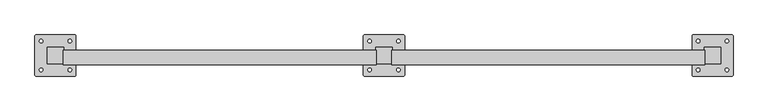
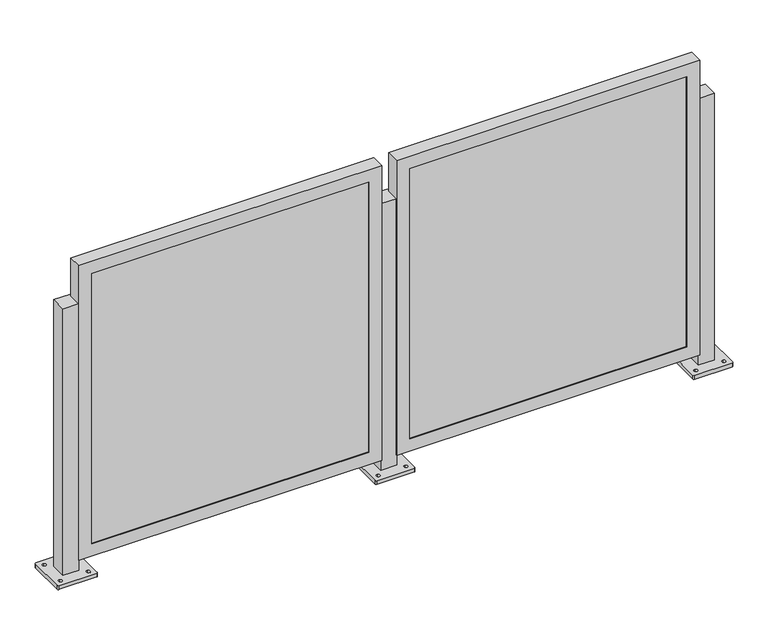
"""IFC4 building model written with IfcOpenShell, lengths in millimetres: railing geometry."""

import ifcopenshell
import ifcopenshell.guid

model = None  # the IFC model being written
_history = None  # IfcOwnerHistory: only IFC2X3 demands one
_inside = {}  # id of a spatial element -> (the spatial element, [elements in it])
_under = {}  # id of a project, library or spatial element -> (it, [spatial elements below it])
_declared = {}  # id of a project -> (the project, [libraries it declares])
_typed = {}  # id of a type object -> (the type object, [elements of that type])
_made_of = {}  # id of a material, layer set ... -> (it, [elements and type objects made of it])


def new_model(schema):
    """Start an empty IFC model of exactly this schema.

    Asked for "IFC4X3", IfcOpenShell would pick the latest addendum, in which some entities
    have other attributes; the version numbers below select the first issue.
    IFC2X3 requires an IfcOwnerHistory on every rooted entity: one is made here for all.
    """
    global model, _history
    if schema == "IFC4X3":
        model = ifcopenshell.file(schema_version=(4, 3, 0, 0))
    else:
        model = ifcopenshell.file(schema=schema)
    _inside.clear()
    _under.clear()
    _declared.clear()
    _typed.clear()
    _made_of.clear()
    _history = None
    if model.schema == "IFC2X3":
        org = make("IfcOrganization", Name="unknown")
        user = make(
            "IfcPersonAndOrganization",
            ThePerson=make("IfcPerson", FamilyName="unknown"),
            TheOrganization=org,
        )
        app = make(
            "IfcApplication",
            ApplicationDeveloper=org,
            Version="unknown",
            ApplicationFullName="unknown",
            ApplicationIdentifier="unknown",
        )
        _history = make(
            "IfcOwnerHistory",
            OwningUser=user,
            OwningApplication=app,
            ChangeAction="ADDED",
            CreationDate=0,
        )
    return model


def make(cls, **values):
    """One entity of the class cls with the attributes given. An attribute that is None is left unset."""
    return model.create_entity(
        cls, **{name: value for name, value in values.items() if value is not None}
    )


def rooted(cls, **values):
    """An entity with a GlobalId (a new one), such as an element, a storey or a relation."""
    return make(cls, GlobalId=ifcopenshell.guid.new(), OwnerHistory=_history, **values)


def si_unit(unit_type, name, prefix=None):
    """IfcSIUnit, for example si_unit("LENGTHUNIT", "METRE", prefix="MILLI")."""
    return make("IfcSIUnit", UnitType=unit_type, Prefix=prefix, Name=name)


def assignment(units):
    """IfcUnitAssignment: the units of a project."""
    return None if units is None else make("IfcUnitAssignment", Units=units)


def point(xyz):
    """IfcCartesianPoint."""
    return None if xyz is None else make("IfcCartesianPoint", Coordinates=xyz)


def direction(xyz):
    """IfcDirection."""
    return None if xyz is None else make("IfcDirection", DirectionRatios=xyz)


def frame(location, z_axis=None, x_axis=None):
    """IfcAxis2Placement3D, a coordinate frame: its origin and axes. An axis left out is left unset."""
    return make(
        "IfcAxis2Placement3D",
        Location=point(location),
        Axis=direction(z_axis),
        RefDirection=direction(x_axis),
    )


def origin():
    """The frame at (0, 0, 0) with its axes left unset."""
    return frame((0.0, 0.0, 0.0))


def place(relative_to, where):
    """IfcLocalPlacement: puts the frame where relative to a parent placement (None: the world)."""
    return make(
        "IfcLocalPlacement", PlacementRelTo=relative_to, RelativePlacement=where
    )


def context(
    kind, dimensions, precision=None, world=None, true_north=None, identifier=None
):
    """IfcGeometricRepresentationContext, for example the 3D "Model" context."""
    return make(
        "IfcGeometricRepresentationContext",
        ContextIdentifier=identifier,
        ContextType=kind,
        CoordinateSpaceDimension=dimensions,
        Precision=precision,
        WorldCoordinateSystem=world,
        TrueNorth=true_north,
    )


def project(units=None, contexts=None):
    """IfcProject with its units and contexts."""
    return rooted(
        "IfcProject",
        Name="project",
        RepresentationContexts=contexts,
        UnitsInContext=assignment(units),
    )


def spatial(cls, under=None, at=None, **own):
    """A site, building, storey or space (cls), placed at a placement, below another one or the project."""
    s = rooted(cls, ObjectPlacement=at, **own)
    if under is not None:
        _under.setdefault(under.id(), (under, []))[1].append(s)
    return s


def polyline(points):
    """IfcPolyline through the points."""
    return make("IfcPolyline", Points=[point(p) for p in points])


def circle_curve(where, radius):
    """IfcCircle in the frame where."""
    return make("IfcCircle", Position=where, Radius=radius)


def outline(outer, holes=None, kind="AREA"):
    """IfcArbitraryClosedProfileDef: a profile drawn as a closed curve; with holes, ...WithVoids."""
    if holes is None:
        return make("IfcArbitraryClosedProfileDef", ProfileType=kind, OuterCurve=outer)
    return make(
        "IfcArbitraryProfileDefWithVoids",
        ProfileType=kind,
        OuterCurve=outer,
        InnerCurves=holes,
    )


def extrude(swept, where, along, depth):
    """IfcExtrudedAreaSolid: the profile swept, set in the frame where, extruded along a direction by depth."""
    return make(
        "IfcExtrudedAreaSolid",
        SweptArea=swept,
        Position=where,
        ExtrudedDirection=direction(along),
        Depth=depth,
    )


def faces_of(points, faces, orient=None, outer=None):
    """IfcFace entities. A face is a list of loops; a loop is a list of indices into points, from 0.

    orient and outer hold one flag for each loop. By default every Orientation is true, the
    first loop of a face is its IfcFaceOuterBound and the others are IfcFaceBound.
    """
    made = []
    for i, loops in enumerate(faces):
        bounds = []
        for j, loop in enumerate(loops):
            is_outer = j == 0 if outer is None else outer[i][j]
            bounds.append(
                make(
                    "IfcFaceOuterBound" if is_outer else "IfcFaceBound",
                    Bound=make("IfcPolyLoop", Polygon=[points[k] for k in loop]),
                    Orientation=True if orient is None else orient[i][j],
                )
            )
        made.append(make("IfcFace", Bounds=bounds))
    return made


def faceted_brep(points, faces, orient=None, outer=None, voids=None):
    """IfcFacetedBrep: a solid bounded by flat faces; with voids (closed shells), ...WithVoids."""
    shared = [point(p) for p in points]
    hull = make("IfcClosedShell", CfsFaces=faces_of(shared, faces, orient, outer))
    if voids is None:
        return make("IfcFacetedBrep", Outer=hull)
    return make(
        "IfcFacetedBrepWithVoids",
        Outer=hull,
        Voids=[
            make(cls, CfsFaces=faces_of(shared, fs, o, b)) for cls, fs, o, b in voids
        ],
    )


def shape(context_of_items, identifier, shape_type, items):
    """IfcShapeRepresentation: the items that make up one representation, for example the "Body"."""
    return make(
        "IfcShapeRepresentation",
        ContextOfItems=context_of_items,
        RepresentationIdentifier=identifier,
        RepresentationType=shape_type,
        Items=items,
    )


def source(mapping_origin, context_of_items, identifier, shape_type, items):
    """IfcRepresentationMap: a shape defined once, which mapped items show again and again."""
    return make(
        "IfcRepresentationMap",
        MappingOrigin=mapping_origin,
        MappedRepresentation=shape(context_of_items, identifier, shape_type, items),
    )


def transform(
    local_origin,
    x_axis=None,
    y_axis=None,
    z_axis=None,
    scale=None,
    scale2=None,
    scale3=None,
    uniform=True,
):
    """IfcCartesianTransformationOperator3D, or its non-uniform kind. x_axis, y_axis, z_axis: its Axis1, 2, 3."""
    if uniform:
        return make(
            "IfcCartesianTransformationOperator3D",
            Axis1=direction(x_axis),
            Axis2=direction(y_axis),
            LocalOrigin=point(local_origin),
            Scale=scale,
            Axis3=direction(z_axis),
        )
    return make(
        "IfcCartesianTransformationOperator3DnonUniform",
        Axis1=direction(x_axis),
        Axis2=direction(y_axis),
        LocalOrigin=point(local_origin),
        Scale=scale,
        Axis3=direction(z_axis),
        Scale2=scale2,
        Scale3=scale3,
    )


def mapped(mapping_source, mapping_target):
    """IfcMappedItem: shows the shape of a source again, moved by a transform."""
    return make(
        "IfcMappedItem", MappingSource=mapping_source, MappingTarget=mapping_target
    )


def made_of(thing, what):
    """Note that an element or type object is made of a material, layer set ...; save() writes the relation."""
    if what is not None:
        _made_of.setdefault(what.id(), (what, []))[1].append(thing)
    return thing


def element(
    cls,
    number,
    at=None,
    inside=None,
    cuts=None,
    type_object=None,
    material=None,
    context=None,
    identifier="Body",
    shape_type=None,
    held_by="IfcProductDefinitionShape",
    body=None,
    shapes=None,
    **own,
):
    """One element of the class cls, such as IfcWall. Its Tag is "e" and its number.

    at: its placement. inside: the storey or other place that contains it. cuts: it is an
    opening in that element (IfcRelVoidsElement). A single representation is given by context,
    identifier, shape_type and body (its items); several are given by shapes. held_by: the class
    of the entity that holds the representations. save() writes the other relations.
    """
    e = rooted(cls, Tag="e%d" % number, ObjectPlacement=at, **own)
    if body is not None:
        shapes = [shape(context, identifier, shape_type, body)]
    if shapes is not None:
        e.Representation = make(held_by, Representations=shapes)
    if inside is not None:
        _inside.setdefault(inside.id(), (inside, []))[1].append(e)
    if cuts is not None:
        rooted(
            "IfcRelVoidsElement", RelatingBuildingElement=cuts, RelatedOpeningElement=e
        )
    if type_object is not None:
        _typed.setdefault(type_object.id(), (type_object, []))[1].append(e)
    return made_of(e, material)


def aggregate(whole, parts):
    """IfcRelAggregates: a whole, such as a stair, and the parts it consists of."""
    return rooted("IfcRelAggregates", RelatingObject=whole, RelatedObjects=parts)


def save(model, path):
    """Write the relations noted so far, then the file.

    IfcRelAggregates (storeys below a building ...), IfcRelContainedInSpatialStructure (elements
    in a storey), IfcRelDefinesByType, IfcRelAssociatesMaterial and IfcRelDeclares: one each for
    every whole, place, type object, material and project.
    """
    for whole, parts in _under.values():
        aggregate(whole, parts)
    for where, things in _inside.values():
        rooted(
            "IfcRelContainedInSpatialStructure",
            RelatedElements=things,
            RelatingStructure=where,
        )
    for kind, things in _typed.values():
        rooted("IfcRelDefinesByType", RelatedObjects=things, RelatingType=kind)
    for what, things in _made_of.values():
        rooted("IfcRelAssociatesMaterial", RelatedObjects=things, RelatingMaterial=what)
    for by, libraries in _declared.values():
        rooted("IfcRelDeclares", RelatingContext=by, RelatedDefinitions=libraries)
    model.write(path)


def plane_surface(at):
    """IfcPlane: the flat surface through the origin of the frame at, square to its z axis."""
    return make("IfcPlane", Position=at)


def cylinder_surface(at, radius):
    """IfcCylindricalSurface: all points at the distance radius from the z axis of the frame at."""
    return make("IfcCylindricalSurface", Position=at, Radius=radius)


def revolved_surface(curve, axis_point, axis_direction):
    """IfcSurfaceOfRevolution: the curve turned about the line through axis_point along axis_direction."""
    return make(
        "IfcSurfaceOfRevolution",
        SweptCurve=make("IfcArbitraryOpenProfileDef", ProfileType="CURVE", Curve=curve),
        AxisPosition=make("IfcAxis1Placement", Location=point(axis_point), Axis=direction(axis_direction)),
    )


def advanced_brep(points, edges, surfaces, faces):
    """IfcAdvancedBrep: a solid bounded by faces that lie on surfaces and meet in shared edges.

    An edge is (start, end): straight between two places in points (the first is 0);
    or (start, end, curve); or (start, end, curve, False) where it runs against its curve.
    A face is (place in surfaces, loops), or (place, loops, False) where it looks against
    its surface's normal. A loop lists edges by number (the first is 1), with a minus sign
    where the edge is run from its end to its start. The first loop is the outer one.
    """
    corners = [point(p) for p in points]
    vertices = [make("IfcVertexPoint", VertexGeometry=c) for c in corners]
    made = []
    for start, end, *more in edges:
        made.append(
            make(
                "IfcEdgeCurve",
                EdgeStart=vertices[start],
                EdgeEnd=vertices[end],
                EdgeGeometry=more[0] if more else make("IfcPolyline", Points=[corners[start], corners[end]]),
                SameSense=more[1] if len(more) > 1 else True,
            )
        )
    hull = []
    for where, loops, *sense in faces:
        bounds = []
        for j, loop in enumerate(loops):
            ring = [make("IfcOrientedEdge", EdgeElement=made[abs(k) - 1], Orientation=k > 0) for k in loop]
            bounds.append(
                make(
                    "IfcFaceOuterBound" if j == 0 else "IfcFaceBound",
                    Bound=make("IfcEdgeLoop", EdgeList=ring),
                    Orientation=True,
                )
            )
        hull.append(make("IfcAdvancedFace", Bounds=bounds, FaceSurface=surfaces[where], SameSense=sense[0] if sense else True))
    return make("IfcAdvancedBrep", Outer=make("IfcClosedShell", CfsFaces=hull))


def railing_5ce61c46(model_context):
    return source(origin(), model_context, "Body", "SolidModel", [
        advanced_brep(
        [(-11302.6460435, -9692.6420964, 914.4), (-11302.6460435, -9743.4420964, 914.4), (-11251.8460435, -9743.4420964, 914.4), (-11251.8460435, -9692.6420964, 914.4), (-11340.7460437, -9778.3670554, 0.0), (-11340.7460437, -9657.7171374, 0.0), (-11337.5710155, -9654.5421093, 0.0), (-11216.9210715, -9654.5421093, 0.0), (-11213.7460433, -9657.7171374, 0.0), (-11213.7460433, -9778.3670554, 0.0), (-11216.9210715, -9781.5420835, 0.0), (-11337.5710155, -9781.5420835, 0.0), (-11321.6960311, -9768.0483511, 0.0), (-11321.6960311, -9756.9358386, 0.0), (-11321.696042, -9679.1483467, 0.0), (-11321.696042, -9668.0358651, 0.0), (-11232.7960301, -9768.0483495, 0.0), (-11232.7960301, -9756.9358389, 0.0), (-11232.796041, -9679.1483452, 0.0), (-11232.796041, -9668.0358654, 0.0), (-11302.6460435, -9692.6420964, 12.7), (-11302.6460435, -9743.4420964, 12.7), (-11251.8460435, -9743.4420964, 12.7), (-11251.8460435, -9692.6420964, 12.7), (-11340.7460437, -9778.3670554, 12.7), (-11337.5710155, -9781.5420835, 12.7), (-11216.9210715, -9781.5420835, 12.7), (-11213.7460433, -9778.3670554, 12.7), (-11213.7460433, -9657.7171374, 12.7), (-11216.9210715, -9654.5421093, 12.7), (-11337.5710155, -9654.5421093, 12.7), (-11340.7460437, -9657.7171374, 12.7), (-11321.6960311, -9768.0483511, 12.7), (-11321.6960311, -9756.9358386, 12.7), (-11321.696042, -9679.1483467, 12.7), (-11321.696042, -9668.0358651, 12.7), (-11232.7960301, -9768.0483495, 12.7), (-11232.7960301, -9756.9358389, 12.7), (-11232.796041, -9679.1483452, 12.7), (-11232.796041, -9668.0358654, 12.7)],
        [
            (0, 1),
            (1, 2),
            (2, 3),
            (3, 0),
            (4, 5),
            (5, 6, circle_curve(frame((-11337.5710155, -9657.7171374, 0.0), z_axis=(0.0, 0.0, -1.0), x_axis=(0.0, 1.0, 0.0)), 3.1750282)),
            (6, 7),
            (7, 8, circle_curve(frame((-11216.9210715, -9657.7171374, 0.0), z_axis=(0.0, 0.0, -1.0), x_axis=(0.0, 1.0, 0.0)), 3.1750282)),
            (8, 9),
            (9, 10, circle_curve(frame((-11216.9210715, -9778.3670554, 0.0), z_axis=(0.0, 0.0, -1.0), x_axis=(0.0, 1.0, 0.0)), 3.1750282)),
            (10, 11),
            (11, 4, circle_curve(frame((-11337.5710155, -9778.3670554, 0.0), z_axis=(0.0, 0.0, -1.0), x_axis=(0.0, 1.0, 0.0)), 3.1750282)),
            (12, 13, circle_curve(frame((-11321.6960311, -9762.4920948, 0.0), z_axis=(0.0, 0.0, 1.0), x_axis=(0.0, 1.0, 0.0)), 5.5562562)),
            (13, 12, circle_curve(frame((-11321.6960311, -9762.4920948, 0.0), z_axis=(0.0, 0.0, 1.0), x_axis=(0.0, 1.0, 0.0)), 5.5562562)),
            (14, 15, circle_curve(frame((-11321.696042, -9673.5921059, 0.0), z_axis=(0.0, 0.0, 1.0), x_axis=(0.0, 1.0, 0.0)), 5.5562408)),
            (15, 14, circle_curve(frame((-11321.696042, -9673.5921059, 0.0), z_axis=(0.0, 0.0, 1.0), x_axis=(0.0, 1.0, 0.0)), 5.5562408)),
            (16, 17, circle_curve(frame((-11232.7960301, -9762.4920942, 0.0), z_axis=(0.0, 0.0, 1.0), x_axis=(0.0, 1.0, 0.0)), 5.5562553)),
            (17, 16, circle_curve(frame((-11232.7960301, -9762.4920942, 0.0), z_axis=(0.0, 0.0, 1.0), x_axis=(0.0, 1.0, 0.0)), 5.5562553)),
            (18, 19, circle_curve(frame((-11232.796041, -9673.5921053, 0.0), z_axis=(0.0, 0.0, 1.0), x_axis=(0.0, 1.0, 0.0)), 5.5562399)),
            (19, 18, circle_curve(frame((-11232.796041, -9673.5921053, 0.0), z_axis=(0.0, 0.0, 1.0), x_axis=(0.0, 1.0, 0.0)), 5.5562399)),
            (0, 20),
            (20, 21),
            (21, 1),
            (21, 22),
            (22, 2),
            (22, 23),
            (23, 3),
            (23, 20),
            (24, 25, circle_curve(frame((-11337.5710155, -9778.3670554, 12.7), z_axis=(0.0, 0.0, 1.0), x_axis=(0.0, 1.0, 0.0)), 3.1750282)),
            (25, 26),
            (26, 27, circle_curve(frame((-11216.9210715, -9778.3670554, 12.7), z_axis=(0.0, 0.0, 1.0), x_axis=(0.0, 1.0, 0.0)), 3.1750282)),
            (27, 28),
            (28, 29, circle_curve(frame((-11216.9210715, -9657.7171374, 12.7), z_axis=(0.0, 0.0, 1.0), x_axis=(0.0, 1.0, 0.0)), 3.1750282)),
            (29, 30),
            (30, 31, circle_curve(frame((-11337.5710155, -9657.7171374, 12.7), z_axis=(0.0, 0.0, 1.0), x_axis=(0.0, 1.0, 0.0)), 3.1750282)),
            (31, 24),
            (32, 33, circle_curve(frame((-11321.6960311, -9762.4920948, 12.7), z_axis=(0.0, 0.0, -1.0), x_axis=(0.0, 1.0, 0.0)), 5.5562562)),
            (33, 32, circle_curve(frame((-11321.6960311, -9762.4920948, 12.7), z_axis=(0.0, 0.0, -1.0), x_axis=(0.0, 1.0, 0.0)), 5.5562562)),
            (34, 35, circle_curve(frame((-11321.696042, -9673.5921059, 12.7), z_axis=(0.0, 0.0, -1.0), x_axis=(0.0, 1.0, 0.0)), 5.5562408)),
            (35, 34, circle_curve(frame((-11321.696042, -9673.5921059, 12.7), z_axis=(0.0, 0.0, -1.0), x_axis=(0.0, 1.0, 0.0)), 5.5562408)),
            (36, 37, circle_curve(frame((-11232.7960301, -9762.4920942, 12.7), z_axis=(0.0, 0.0, -1.0), x_axis=(0.0, 1.0, 0.0)), 5.5562553)),
            (37, 36, circle_curve(frame((-11232.7960301, -9762.4920942, 12.7), z_axis=(0.0, 0.0, -1.0), x_axis=(0.0, 1.0, 0.0)), 5.5562553)),
            (38, 39, circle_curve(frame((-11232.796041, -9673.5921053, 12.7), z_axis=(0.0, 0.0, -1.0), x_axis=(0.0, 1.0, 0.0)), 5.5562399)),
            (39, 38, circle_curve(frame((-11232.796041, -9673.5921053, 12.7), z_axis=(0.0, 0.0, -1.0), x_axis=(0.0, 1.0, 0.0)), 5.5562399)),
            (24, 4),
            (11, 25),
            (10, 26),
            (9, 27),
            (8, 28),
            (7, 29),
            (6, 30),
            (5, 31),
            (32, 12),
            (13, 33),
            (34, 14),
            (15, 35),
            (36, 16),
            (17, 37),
            (38, 18),
            (19, 39),
        ],
        [
            plane_surface(frame((-11302.6460435, -9743.4420964, 914.4), z_axis=(0.0, 0.0, 1.0), x_axis=(0.0, -1.0, 0.0))),
            plane_surface(frame((-11302.6460435, -9743.4420964, 0.0), z_axis=(0.0, 0.0, -1.0), x_axis=(0.0, 1.0, 0.0))),
            plane_surface(frame((-11302.6460435, -9692.6420964, 914.4), z_axis=(-1.0, 0.0, 0.0), x_axis=(0.0, 0.0, -1.0))),
            plane_surface(frame((-11302.6460435, -9743.4420964, 914.4), z_axis=(0.0, -1.0, 0.0), x_axis=(0.0, 0.0, -1.0))),
            plane_surface(frame((-11251.8460435, -9743.4420964, 914.4), z_axis=(1.0, 0.0, 0.0), x_axis=(0.0, 0.0, -1.0))),
            plane_surface(frame((-11251.8460435, -9692.6420964, 914.4), z_axis=(0.0, 1.0, 0.0), x_axis=(0.0, 0.0, -1.0))),
            plane_surface(frame((-11337.5710155, -9775.1920272, 12.7), z_axis=(0.0, 0.0, 1.0), x_axis=(-1.0, 0.0, 0.0))),
            cylinder_surface(frame((-11337.5710155, -9778.3670554, 0.0), z_axis=(0.0, 0.0, 1.0), x_axis=(0.0, 1.0, 0.0)), 3.1750282),
            plane_surface(frame((-11337.5710155, -9781.5420835, 12.7), z_axis=(1.1945386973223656e-12, -1.0, 0.0), x_axis=(0.0, 0.0, -1.0))),
            cylinder_surface(frame((-11216.9210715, -9778.3670554, 0.0), z_axis=(0.0, 0.0, 1.0), x_axis=(0.0, 1.0, 0.0)), 3.1750282),
            plane_surface(frame((-11213.7460433, -9778.3670554, 12.7), z_axis=(1.0, 0.0, 0.0), x_axis=(0.0, 0.0, -1.0))),
            cylinder_surface(frame((-11216.9210715, -9657.7171374, 0.0), z_axis=(0.0, 0.0, 1.0), x_axis=(0.0, 1.0, 0.0)), 3.1750282),
            plane_surface(frame((-11216.9210715, -9654.5421093, 12.7), z_axis=(-1.1946088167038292e-12, 1.0, 0.0), x_axis=(0.0, 0.0, -1.0))),
            cylinder_surface(frame((-11337.5710155, -9657.7171374, 0.0), z_axis=(0.0, 0.0, 1.0), x_axis=(0.0, 1.0, 0.0)), 3.1750282),
            plane_surface(frame((-11340.7460437, -9657.7171374, 12.7), z_axis=(-1.0, 0.0, 0.0), x_axis=(0.0, 0.0, -1.0))),
            revolved_surface(polyline([(-11321.6960311, -9756.9358386, 0.0), (-11321.6960311, -9756.9358386, 12.7)]), (-11321.6960311, -9762.4920948, 0.0), (0.0, 0.0, -1.0)),
            revolved_surface(polyline([(-11321.696042, -9668.035865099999, 0.0), (-11321.696042, -9668.035865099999, 12.7)]), (-11321.696042, -9673.5921059, 0.0), (0.0, 0.0, -1.0)),
            revolved_surface(polyline([(-11232.7960301, -9756.9358389, 0.0), (-11232.7960301, -9756.9358389, 12.7)]), (-11232.7960301, -9762.4920942, 0.0), (0.0, 0.0, -1.0)),
            revolved_surface(polyline([(-11232.796041, -9668.035865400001, 0.0), (-11232.796041, -9668.035865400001, 12.7)]), (-11232.796041, -9673.5921053, 0.0), (0.0, 0.0, -1.0)),
        ],
        [
            (0, [[1, 2, 3, 4]]),
            (1, [[5, 6, 7, 8, 9, 10, 11, 12], [13, 14], [15, 16], [17, 18], [19, 20]]),
            (2, [[-1, 21, 22, 23]]),
            (3, [[-2, -23, 24, 25]]),
            (4, [[-3, -25, 26, 27]]),
            (5, [[-4, -27, 28, -21]]),
            (6, [[29, 30, 31, 32, 33, 34, 35, 36], [-22, -28, -26, -24], [37, 38], [39, 40], [41, 42], [43, 44]]),
            (7, [[-29, 45, -12, 46]]),
            (8, [[-30, -46, -11, 47]]),
            (9, [[-31, -47, -10, 48]]),
            (10, [[-32, -48, -9, 49]]),
            (11, [[-33, -49, -8, 50]]),
            (12, [[-34, -50, -7, 51]]),
            (13, [[-35, -51, -6, 52]]),
            (14, [[-36, -52, -5, -45]]),
            (15, [[-37, 53, -14, 54]]),
            (15, [[-38, -54, -13, -53]]),
            (16, [[-39, 55, -16, 56]]),
            (16, [[-40, -56, -15, -55]]),
            (17, [[-41, 57, -18, 58]]),
            (17, [[-42, -58, -17, -57]]),
            (18, [[-43, 59, -20, 60]]),
            (18, [[-44, -60, -19, -59]]),
        ],
    ),
        faceted_brep([(-12269.0504969, -9746.1852964, 47.625), (-11300.6754969, -9746.1852964, 47.625), (-11300.6754969, -9746.1852964, 1044.575), (-12269.0504969, -9746.1852964, 1044.575), (-12227.7754969, -9746.1852964, 1003.3), (-11341.9504969, -9746.1852964, 1003.3), (-11341.9504969, -9746.1852964, 88.9), (-12227.7754969, -9746.1852964, 88.9), (-12227.7754969, -9743.4420964, 1003.3), (-12227.7754969, -9743.4420964, 88.9), (-12269.0504969, -9702.3119999, 1044.575), (-12269.0504969, -9702.3119999, 47.625), (-12265.8754969, -9702.3119999, 1041.4), (-12265.8754969, -9743.4420964, 1041.4), (-12265.8754969, -9743.4420964, 50.8), (-12265.8754969, -9702.3119999, 50.8), (-11341.9504969, -9743.4420964, 88.9), (-11300.6754969, -9702.3119999, 47.625), (-11303.8504969, -9743.4420964, 50.8), (-11303.8504969, -9702.3119999, 50.8), (-11341.9504969, -9743.4420964, 1003.3), (-11300.6754969, -9702.3119999, 1044.575), (-11303.8504969, -9743.4420964, 1041.4), (-11303.8504969, -9702.3119999, 1041.4)], [[[0, 1, 2, 3], [4, 5, 6, 7]], [[8, 4, 7, 9]], [[3, 10, 11, 0]], [[12, 13, 14, 15]], [[9, 7, 6, 16]], [[0, 11, 17, 1]], [[15, 14, 18, 19]], [[16, 6, 5, 20]], [[1, 17, 21, 2]], [[19, 18, 22, 23]], [[20, 5, 4, 8]], [[10, 21, 17, 11], [15, 19, 23, 12]], [[2, 21, 10, 3]], [[13, 22, 18, 14], [9, 16, 20, 8]], [[23, 22, 13, 12]]]),
        extrude(outline(polyline([(-12265.8754969, -9733.9170964), (-11303.8504969, -9733.9170964), (-11303.8504969, -9743.4420964), (-12265.8754969, -9743.4420964), (-12265.8754969, -9733.9170964)])), frame((0.0, 0.0, 50.8), z_axis=(0.0, 0.0, 1.0), x_axis=(1.0, 0.0, 0.0)), (0.0, 0.0, 1.0), 990.6),
        advanced_brep(
        [(-12318.6460435, -9692.6420964, 914.4), (-12318.6460435, -9743.4420964, 914.4), (-12267.8460435, -9743.4420964, 914.4), (-12267.8460435, -9692.6420964, 914.4), (-12356.7460437, -9778.3670554, 0.0), (-12356.7460437, -9657.7171374, 0.0), (-12353.5710155, -9654.5421093, 0.0), (-12232.9210715, -9654.5421093, 0.0), (-12229.7460433, -9657.7171374, 0.0), (-12229.7460433, -9778.3670554, 0.0), (-12232.9210715, -9781.5420835, 0.0), (-12353.5710155, -9781.5420835, 0.0), (-12337.6960311, -9768.0483511, 0.0), (-12337.6960311, -9756.9358386, 0.0), (-12337.696042, -9679.1483467, 0.0), (-12337.696042, -9668.0358651, 0.0), (-12248.7960301, -9768.0483495, 0.0), (-12248.7960301, -9756.9358389, 0.0), (-12248.796041, -9679.1483452, 0.0), (-12248.796041, -9668.0358654, 0.0), (-12318.6460435, -9692.6420964, 12.7), (-12318.6460435, -9743.4420964, 12.7), (-12267.8460435, -9743.4420964, 12.7), (-12267.8460435, -9692.6420964, 12.7), (-12356.7460437, -9778.3670554, 12.7), (-12353.5710155, -9781.5420835, 12.7), (-12232.9210715, -9781.5420835, 12.7), (-12229.7460433, -9778.3670554, 12.7), (-12229.7460433, -9657.7171374, 12.7), (-12232.9210715, -9654.5421093, 12.7), (-12353.5710155, -9654.5421093, 12.7), (-12356.7460437, -9657.7171374, 12.7), (-12337.6960311, -9768.0483511, 12.7), (-12337.6960311, -9756.9358386, 12.7), (-12337.696042, -9679.1483467, 12.7), (-12337.696042, -9668.0358651, 12.7), (-12248.7960301, -9768.0483495, 12.7), (-12248.7960301, -9756.9358389, 12.7), (-12248.796041, -9679.1483452, 12.7), (-12248.796041, -9668.0358654, 12.7)],
        [
            (0, 1),
            (1, 2),
            (2, 3),
            (3, 0),
            (4, 5),
            (5, 6, circle_curve(frame((-12353.5710155, -9657.7171374, 0.0), z_axis=(0.0, 0.0, -1.0), x_axis=(0.0, 1.0, 0.0)), 3.1750282)),
            (6, 7),
            (7, 8, circle_curve(frame((-12232.9210715, -9657.7171374, 0.0), z_axis=(0.0, 0.0, -1.0), x_axis=(0.0, 1.0, 0.0)), 3.1750282)),
            (8, 9),
            (9, 10, circle_curve(frame((-12232.9210715, -9778.3670554, 0.0), z_axis=(0.0, 0.0, -1.0), x_axis=(0.0, 1.0, 0.0)), 3.1750282)),
            (10, 11),
            (11, 4, circle_curve(frame((-12353.5710155, -9778.3670554, 0.0), z_axis=(0.0, 0.0, -1.0), x_axis=(0.0, 1.0, 0.0)), 3.1750282)),
            (12, 13, circle_curve(frame((-12337.6960311, -9762.4920948, 0.0), z_axis=(0.0, 0.0, 1.0), x_axis=(0.0, 1.0, 0.0)), 5.5562562)),
            (13, 12, circle_curve(frame((-12337.6960311, -9762.4920948, 0.0), z_axis=(0.0, 0.0, 1.0), x_axis=(0.0, 1.0, 0.0)), 5.5562562)),
            (14, 15, circle_curve(frame((-12337.696042, -9673.5921059, 0.0), z_axis=(0.0, 0.0, 1.0), x_axis=(0.0, 1.0, 0.0)), 5.5562408)),
            (15, 14, circle_curve(frame((-12337.696042, -9673.5921059, 0.0), z_axis=(0.0, 0.0, 1.0), x_axis=(0.0, 1.0, 0.0)), 5.5562408)),
            (16, 17, circle_curve(frame((-12248.7960301, -9762.4920942, 0.0), z_axis=(0.0, 0.0, 1.0), x_axis=(0.0, 1.0, 0.0)), 5.5562553)),
            (17, 16, circle_curve(frame((-12248.7960301, -9762.4920942, 0.0), z_axis=(0.0, 0.0, 1.0), x_axis=(0.0, 1.0, 0.0)), 5.5562553)),
            (18, 19, circle_curve(frame((-12248.796041, -9673.5921053, 0.0), z_axis=(0.0, 0.0, 1.0), x_axis=(0.0, 1.0, 0.0)), 5.5562399)),
            (19, 18, circle_curve(frame((-12248.796041, -9673.5921053, 0.0), z_axis=(0.0, 0.0, 1.0), x_axis=(0.0, 1.0, 0.0)), 5.5562399)),
            (0, 20),
            (20, 21),
            (21, 1),
            (21, 22),
            (22, 2),
            (22, 23),
            (23, 3),
            (23, 20),
            (24, 25, circle_curve(frame((-12353.5710155, -9778.3670554, 12.7), z_axis=(0.0, 0.0, 1.0), x_axis=(0.0, 1.0, 0.0)), 3.1750282)),
            (25, 26),
            (26, 27, circle_curve(frame((-12232.9210715, -9778.3670554, 12.7), z_axis=(0.0, 0.0, 1.0), x_axis=(0.0, 1.0, 0.0)), 3.1750282)),
            (27, 28),
            (28, 29, circle_curve(frame((-12232.9210715, -9657.7171374, 12.7), z_axis=(0.0, 0.0, 1.0), x_axis=(0.0, 1.0, 0.0)), 3.1750282)),
            (29, 30),
            (30, 31, circle_curve(frame((-12353.5710155, -9657.7171374, 12.7), z_axis=(0.0, 0.0, 1.0), x_axis=(0.0, 1.0, 0.0)), 3.1750282)),
            (31, 24),
            (32, 33, circle_curve(frame((-12337.6960311, -9762.4920948, 12.7), z_axis=(0.0, 0.0, -1.0), x_axis=(0.0, 1.0, 0.0)), 5.5562562)),
            (33, 32, circle_curve(frame((-12337.6960311, -9762.4920948, 12.7), z_axis=(0.0, 0.0, -1.0), x_axis=(0.0, 1.0, 0.0)), 5.5562562)),
            (34, 35, circle_curve(frame((-12337.696042, -9673.5921059, 12.7), z_axis=(0.0, 0.0, -1.0), x_axis=(0.0, 1.0, 0.0)), 5.5562408)),
            (35, 34, circle_curve(frame((-12337.696042, -9673.5921059, 12.7), z_axis=(0.0, 0.0, -1.0), x_axis=(0.0, 1.0, 0.0)), 5.5562408)),
            (36, 37, circle_curve(frame((-12248.7960301, -9762.4920942, 12.7), z_axis=(0.0, 0.0, -1.0), x_axis=(0.0, 1.0, 0.0)), 5.5562553)),
            (37, 36, circle_curve(frame((-12248.7960301, -9762.4920942, 12.7), z_axis=(0.0, 0.0, -1.0), x_axis=(0.0, 1.0, 0.0)), 5.5562553)),
            (38, 39, circle_curve(frame((-12248.796041, -9673.5921053, 12.7), z_axis=(0.0, 0.0, -1.0), x_axis=(0.0, 1.0, 0.0)), 5.5562399)),
            (39, 38, circle_curve(frame((-12248.796041, -9673.5921053, 12.7), z_axis=(0.0, 0.0, -1.0), x_axis=(0.0, 1.0, 0.0)), 5.5562399)),
            (24, 4),
            (11, 25),
            (10, 26),
            (9, 27),
            (8, 28),
            (7, 29),
            (6, 30),
            (5, 31),
            (32, 12),
            (13, 33),
            (34, 14),
            (15, 35),
            (36, 16),
            (17, 37),
            (38, 18),
            (19, 39),
        ],
        [
            plane_surface(frame((-12318.6460435, -9743.4420964, 914.4), z_axis=(0.0, 0.0, 1.0), x_axis=(0.0, -1.0, 0.0))),
            plane_surface(frame((-12318.6460435, -9743.4420964, 0.0), z_axis=(0.0, 0.0, -1.0), x_axis=(0.0, 1.0, 0.0))),
            plane_surface(frame((-12318.6460435, -9692.6420964, 914.4), z_axis=(-1.0, 0.0, 0.0), x_axis=(0.0, 0.0, -1.0))),
            plane_surface(frame((-12318.6460435, -9743.4420964, 914.4), z_axis=(0.0, -1.0, 0.0), x_axis=(0.0, 0.0, -1.0))),
            plane_surface(frame((-12267.8460435, -9743.4420964, 914.4), z_axis=(1.0, 0.0, 0.0), x_axis=(0.0, 0.0, -1.0))),
            plane_surface(frame((-12267.8460435, -9692.6420964, 914.4), z_axis=(0.0, 1.0, 0.0), x_axis=(0.0, 0.0, -1.0))),
            plane_surface(frame((-12353.5710155, -9775.1920272, 12.7), z_axis=(0.0, 0.0, 1.0), x_axis=(-1.0, 0.0, 0.0))),
            cylinder_surface(frame((-12353.5710155, -9778.3670554, 0.0), z_axis=(0.0, 0.0, 1.0), x_axis=(0.0, 1.0, 0.0)), 3.1750282),
            plane_surface(frame((-12353.5710155, -9781.5420835, 12.7), z_axis=(1.1945386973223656e-12, -1.0, 0.0), x_axis=(0.0, 0.0, -1.0))),
            cylinder_surface(frame((-12232.9210715, -9778.3670554, 0.0), z_axis=(0.0, 0.0, 1.0), x_axis=(0.0, 1.0, 0.0)), 3.1750282),
            plane_surface(frame((-12229.7460433, -9778.3670554, 12.7), z_axis=(1.0, 0.0, 0.0), x_axis=(0.0, 0.0, -1.0))),
            cylinder_surface(frame((-12232.9210715, -9657.7171374, 0.0), z_axis=(0.0, 0.0, 1.0), x_axis=(0.0, 1.0, 0.0)), 3.1750282),
            plane_surface(frame((-12232.9210715, -9654.5421093, 12.7), z_axis=(-1.1946088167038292e-12, 1.0, 0.0), x_axis=(0.0, 0.0, -1.0))),
            cylinder_surface(frame((-12353.5710155, -9657.7171374, 0.0), z_axis=(0.0, 0.0, 1.0), x_axis=(0.0, 1.0, 0.0)), 3.1750282),
            plane_surface(frame((-12356.7460437, -9657.7171374, 12.7), z_axis=(-1.0, 0.0, 0.0), x_axis=(0.0, 0.0, -1.0))),
            revolved_surface(polyline([(-12337.6960311, -9756.9358386, 0.0), (-12337.6960311, -9756.9358386, 12.7)]), (-12337.6960311, -9762.4920948, 0.0), (0.0, 0.0, -1.0)),
            revolved_surface(polyline([(-12337.696042, -9668.035865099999, 0.0), (-12337.696042, -9668.035865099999, 12.7)]), (-12337.696042, -9673.5921059, 0.0), (0.0, 0.0, -1.0)),
            revolved_surface(polyline([(-12248.7960301, -9756.9358389, 0.0), (-12248.7960301, -9756.9358389, 12.7)]), (-12248.7960301, -9762.4920942, 0.0), (0.0, 0.0, -1.0)),
            revolved_surface(polyline([(-12248.796041, -9668.035865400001, 0.0), (-12248.796041, -9668.035865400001, 12.7)]), (-12248.796041, -9673.5921053, 0.0), (0.0, 0.0, -1.0)),
        ],
        [
            (0, [[1, 2, 3, 4]]),
            (1, [[5, 6, 7, 8, 9, 10, 11, 12], [13, 14], [15, 16], [17, 18], [19, 20]]),
            (2, [[-1, 21, 22, 23]]),
            (3, [[-2, -23, 24, 25]]),
            (4, [[-3, -25, 26, 27]]),
            (5, [[-4, -27, 28, -21]]),
            (6, [[29, 30, 31, 32, 33, 34, 35, 36], [-22, -28, -26, -24], [37, 38], [39, 40], [41, 42], [43, 44]]),
            (7, [[-29, 45, -12, 46]]),
            (8, [[-30, -46, -11, 47]]),
            (9, [[-31, -47, -10, 48]]),
            (10, [[-32, -48, -9, 49]]),
            (11, [[-33, -49, -8, 50]]),
            (12, [[-34, -50, -7, 51]]),
            (13, [[-35, -51, -6, 52]]),
            (14, [[-36, -52, -5, -45]]),
            (15, [[-37, 53, -14, 54]]),
            (15, [[-38, -54, -13, -53]]),
            (16, [[-39, 55, -16, 56]]),
            (16, [[-40, -56, -15, -55]]),
            (17, [[-41, 57, -18, 58]]),
            (17, [[-42, -58, -17, -57]]),
            (18, [[-43, 59, -20, 60]]),
            (18, [[-44, -60, -19, -59]]),
        ],
    ),
        faceted_brep([(-13285.0504969, -9746.1852964, 47.625), (-12316.6754969, -9746.1852964, 47.625), (-12316.6754969, -9746.1852964, 1044.575), (-13285.0504969, -9746.1852964, 1044.575), (-13243.7754969, -9746.1852964, 1003.3), (-12357.9504969, -9746.1852964, 1003.3), (-12357.9504969, -9746.1852964, 88.9), (-13243.7754969, -9746.1852964, 88.9), (-13243.7754969, -9743.4420964, 1003.3), (-13243.7754969, -9743.4420964, 88.9), (-13285.0504969, -9702.3119999, 1044.575), (-13285.0504969, -9702.3119999, 47.625), (-13281.8754969, -9702.3119999, 1041.4), (-13281.8754969, -9743.4420964, 1041.4), (-13281.8754969, -9743.4420964, 50.8), (-13281.8754969, -9702.3119999, 50.8), (-12357.9504969, -9743.4420964, 88.9), (-12316.6754969, -9702.3119999, 47.625), (-12319.8504969, -9743.4420964, 50.8), (-12319.8504969, -9702.3119999, 50.8), (-12357.9504969, -9743.4420964, 1003.3), (-12316.6754969, -9702.3119999, 1044.575), (-12319.8504969, -9743.4420964, 1041.4), (-12319.8504969, -9702.3119999, 1041.4)], [[[0, 1, 2, 3], [4, 5, 6, 7]], [[8, 4, 7, 9]], [[3, 10, 11, 0]], [[12, 13, 14, 15]], [[9, 7, 6, 16]], [[0, 11, 17, 1]], [[15, 14, 18, 19]], [[16, 6, 5, 20]], [[1, 17, 21, 2]], [[19, 18, 22, 23]], [[20, 5, 4, 8]], [[10, 21, 17, 11], [15, 19, 23, 12]], [[2, 21, 10, 3]], [[13, 22, 18, 14], [9, 16, 20, 8]], [[23, 22, 13, 12]]]),
        extrude(outline(polyline([(-13281.8754969, -9733.9170964), (-12319.8504969, -9733.9170964), (-12319.8504969, -9743.4420964), (-13281.8754969, -9743.4420964), (-13281.8754969, -9733.9170964)])), frame((0.0, 0.0, 50.8), z_axis=(0.0, 0.0, 1.0), x_axis=(1.0, 0.0, 0.0)), (0.0, 0.0, 1.0), 990.6),
        advanced_brep(
        [(-13334.6460435, -9692.6420964, 914.4), (-13334.6460435, -9743.4420964, 914.4), (-13283.8460435, -9743.4420964, 914.4), (-13283.8460435, -9692.6420964, 914.4), (-13372.7460437, -9778.3670554, 0.0), (-13372.7460437, -9657.7171374, 0.0), (-13369.5710155, -9654.5421093, 0.0), (-13248.9210715, -9654.5421093, 0.0), (-13245.7460433, -9657.7171374, 0.0), (-13245.7460433, -9778.3670554, 0.0), (-13248.9210715, -9781.5420835, 0.0), (-13369.5710155, -9781.5420835, 0.0), (-13353.6960311, -9768.0483511, 0.0), (-13353.6960311, -9756.9358386, 0.0), (-13353.696042, -9679.1483467, 0.0), (-13353.696042, -9668.0358651, 0.0), (-13264.7960301, -9768.0483495, 0.0), (-13264.7960301, -9756.9358389, 0.0), (-13264.796041, -9679.1483452, 0.0), (-13264.796041, -9668.0358654, 0.0), (-13334.6460435, -9692.6420964, 12.7), (-13334.6460435, -9743.4420964, 12.7), (-13283.8460435, -9743.4420964, 12.7), (-13283.8460435, -9692.6420964, 12.7), (-13372.7460437, -9778.3670554, 12.7), (-13369.5710155, -9781.5420835, 12.7), (-13248.9210715, -9781.5420835, 12.7), (-13245.7460433, -9778.3670554, 12.7), (-13245.7460433, -9657.7171374, 12.7), (-13248.9210715, -9654.5421093, 12.7), (-13369.5710155, -9654.5421093, 12.7), (-13372.7460437, -9657.7171374, 12.7), (-13353.6960311, -9768.0483511, 12.7), (-13353.6960311, -9756.9358386, 12.7), (-13353.696042, -9679.1483467, 12.7), (-13353.696042, -9668.0358651, 12.7), (-13264.7960301, -9768.0483495, 12.7), (-13264.7960301, -9756.9358389, 12.7), (-13264.796041, -9679.1483452, 12.7), (-13264.796041, -9668.0358654, 12.7)],
        [
            (0, 1),
            (1, 2),
            (2, 3),
            (3, 0),
            (4, 5),
            (5, 6, circle_curve(frame((-13369.5710155, -9657.7171374, 0.0), z_axis=(0.0, 0.0, -1.0), x_axis=(0.0, 1.0, 0.0)), 3.1750282)),
            (6, 7),
            (7, 8, circle_curve(frame((-13248.9210715, -9657.7171374, 0.0), z_axis=(0.0, 0.0, -1.0), x_axis=(0.0, 1.0, 0.0)), 3.1750282)),
            (8, 9),
            (9, 10, circle_curve(frame((-13248.9210715, -9778.3670554, 0.0), z_axis=(0.0, 0.0, -1.0), x_axis=(0.0, 1.0, 0.0)), 3.1750282)),
            (10, 11),
            (11, 4, circle_curve(frame((-13369.5710155, -9778.3670554, 0.0), z_axis=(0.0, 0.0, -1.0), x_axis=(0.0, 1.0, 0.0)), 3.1750282)),
            (12, 13, circle_curve(frame((-13353.6960311, -9762.4920948, 0.0), z_axis=(0.0, 0.0, 1.0), x_axis=(0.0, 1.0, 0.0)), 5.5562562)),
            (13, 12, circle_curve(frame((-13353.6960311, -9762.4920948, 0.0), z_axis=(0.0, 0.0, 1.0), x_axis=(0.0, 1.0, 0.0)), 5.5562562)),
            (14, 15, circle_curve(frame((-13353.696042, -9673.5921059, 0.0), z_axis=(0.0, 0.0, 1.0), x_axis=(0.0, 1.0, 0.0)), 5.5562408)),
            (15, 14, circle_curve(frame((-13353.696042, -9673.5921059, 0.0), z_axis=(0.0, 0.0, 1.0), x_axis=(0.0, 1.0, 0.0)), 5.5562408)),
            (16, 17, circle_curve(frame((-13264.7960301, -9762.4920942, 0.0), z_axis=(0.0, 0.0, 1.0), x_axis=(0.0, 1.0, 0.0)), 5.5562553)),
            (17, 16, circle_curve(frame((-13264.7960301, -9762.4920942, 0.0), z_axis=(0.0, 0.0, 1.0), x_axis=(0.0, 1.0, 0.0)), 5.5562553)),
            (18, 19, circle_curve(frame((-13264.796041, -9673.5921053, 0.0), z_axis=(0.0, 0.0, 1.0), x_axis=(0.0, 1.0, 0.0)), 5.5562399)),
            (19, 18, circle_curve(frame((-13264.796041, -9673.5921053, 0.0), z_axis=(0.0, 0.0, 1.0), x_axis=(0.0, 1.0, 0.0)), 5.5562399)),
            (0, 20),
            (20, 21),
            (21, 1),
            (21, 22),
            (22, 2),
            (22, 23),
            (23, 3),
            (23, 20),
            (24, 25, circle_curve(frame((-13369.5710155, -9778.3670554, 12.7), z_axis=(0.0, 0.0, 1.0), x_axis=(0.0, 1.0, 0.0)), 3.1750282)),
            (25, 26),
            (26, 27, circle_curve(frame((-13248.9210715, -9778.3670554, 12.7), z_axis=(0.0, 0.0, 1.0), x_axis=(0.0, 1.0, 0.0)), 3.1750282)),
            (27, 28),
            (28, 29, circle_curve(frame((-13248.9210715, -9657.7171374, 12.7), z_axis=(0.0, 0.0, 1.0), x_axis=(0.0, 1.0, 0.0)), 3.1750282)),
            (29, 30),
            (30, 31, circle_curve(frame((-13369.5710155, -9657.7171374, 12.7), z_axis=(0.0, 0.0, 1.0), x_axis=(0.0, 1.0, 0.0)), 3.1750282)),
            (31, 24),
            (32, 33, circle_curve(frame((-13353.6960311, -9762.4920948, 12.7), z_axis=(0.0, 0.0, -1.0), x_axis=(0.0, 1.0, 0.0)), 5.5562562)),
            (33, 32, circle_curve(frame((-13353.6960311, -9762.4920948, 12.7), z_axis=(0.0, 0.0, -1.0), x_axis=(0.0, 1.0, 0.0)), 5.5562562)),
            (34, 35, circle_curve(frame((-13353.696042, -9673.5921059, 12.7), z_axis=(0.0, 0.0, -1.0), x_axis=(0.0, 1.0, 0.0)), 5.5562408)),
            (35, 34, circle_curve(frame((-13353.696042, -9673.5921059, 12.7), z_axis=(0.0, 0.0, -1.0), x_axis=(0.0, 1.0, 0.0)), 5.5562408)),
            (36, 37, circle_curve(frame((-13264.7960301, -9762.4920942, 12.7), z_axis=(0.0, 0.0, -1.0), x_axis=(0.0, 1.0, 0.0)), 5.5562553)),
            (37, 36, circle_curve(frame((-13264.7960301, -9762.4920942, 12.7), z_axis=(0.0, 0.0, -1.0), x_axis=(0.0, 1.0, 0.0)), 5.5562553)),
            (38, 39, circle_curve(frame((-13264.796041, -9673.5921053, 12.7), z_axis=(0.0, 0.0, -1.0), x_axis=(0.0, 1.0, 0.0)), 5.5562399)),
            (39, 38, circle_curve(frame((-13264.796041, -9673.5921053, 12.7), z_axis=(0.0, 0.0, -1.0), x_axis=(0.0, 1.0, 0.0)), 5.5562399)),
            (24, 4),
            (11, 25),
            (10, 26),
            (9, 27),
            (8, 28),
            (7, 29),
            (6, 30),
            (5, 31),
            (32, 12),
            (13, 33),
            (34, 14),
            (15, 35),
            (36, 16),
            (17, 37),
            (38, 18),
            (19, 39),
        ],
        [
            plane_surface(frame((-13334.6460435, -9743.4420964, 914.4), z_axis=(0.0, 0.0, 1.0), x_axis=(0.0, -1.0, 0.0))),
            plane_surface(frame((-13334.6460435, -9743.4420964, 0.0), z_axis=(0.0, 0.0, -1.0), x_axis=(0.0, 1.0, 0.0))),
            plane_surface(frame((-13334.6460435, -9692.6420964, 914.4), z_axis=(-1.0, 0.0, 0.0), x_axis=(0.0, 0.0, -1.0))),
            plane_surface(frame((-13334.6460435, -9743.4420964, 914.4), z_axis=(0.0, -1.0, 0.0), x_axis=(0.0, 0.0, -1.0))),
            plane_surface(frame((-13283.8460435, -9743.4420964, 914.4), z_axis=(1.0, 0.0, 0.0), x_axis=(0.0, 0.0, -1.0))),
            plane_surface(frame((-13283.8460435, -9692.6420964, 914.4), z_axis=(0.0, 1.0, 0.0), x_axis=(0.0, 0.0, -1.0))),
            plane_surface(frame((-13369.5710155, -9775.1920272, 12.7), z_axis=(0.0, 0.0, 1.0), x_axis=(-1.0, 0.0, 0.0))),
            cylinder_surface(frame((-13369.5710155, -9778.3670554, 0.0), z_axis=(0.0, 0.0, 1.0), x_axis=(0.0, 1.0, 0.0)), 3.1750282),
            plane_surface(frame((-13369.5710155, -9781.5420835, 12.7), z_axis=(1.1945386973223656e-12, -1.0, 0.0), x_axis=(0.0, 0.0, -1.0))),
            cylinder_surface(frame((-13248.9210715, -9778.3670554, 0.0), z_axis=(0.0, 0.0, 1.0), x_axis=(0.0, 1.0, 0.0)), 3.1750282),
            plane_surface(frame((-13245.7460433, -9778.3670554, 12.7), z_axis=(1.0, 0.0, 0.0), x_axis=(0.0, 0.0, -1.0))),
            cylinder_surface(frame((-13248.9210715, -9657.7171374, 0.0), z_axis=(0.0, 0.0, 1.0), x_axis=(0.0, 1.0, 0.0)), 3.1750282),
            plane_surface(frame((-13248.9210715, -9654.5421093, 12.7), z_axis=(-1.1946088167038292e-12, 1.0, 0.0), x_axis=(0.0, 0.0, -1.0))),
            cylinder_surface(frame((-13369.5710155, -9657.7171374, 0.0), z_axis=(0.0, 0.0, 1.0), x_axis=(0.0, 1.0, 0.0)), 3.1750282),
            plane_surface(frame((-13372.7460437, -9657.7171374, 12.7), z_axis=(-1.0, 0.0, 0.0), x_axis=(0.0, 0.0, -1.0))),
            revolved_surface(polyline([(-13353.6960311, -9756.9358386, 0.0), (-13353.6960311, -9756.9358386, 12.7)]), (-13353.6960311, -9762.4920948, 0.0), (0.0, 0.0, -1.0)),
            revolved_surface(polyline([(-13353.696042, -9668.035865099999, 0.0), (-13353.696042, -9668.035865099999, 12.7)]), (-13353.696042, -9673.5921059, 0.0), (0.0, 0.0, -1.0)),
            revolved_surface(polyline([(-13264.7960301, -9756.9358389, 0.0), (-13264.7960301, -9756.9358389, 12.7)]), (-13264.7960301, -9762.4920942, 0.0), (0.0, 0.0, -1.0)),
            revolved_surface(polyline([(-13264.796041, -9668.035865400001, 0.0), (-13264.796041, -9668.035865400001, 12.7)]), (-13264.796041, -9673.5921053, 0.0), (0.0, 0.0, -1.0)),
        ],
        [
            (0, [[1, 2, 3, 4]]),
            (1, [[5, 6, 7, 8, 9, 10, 11, 12], [13, 14], [15, 16], [17, 18], [19, 20]]),
            (2, [[-1, 21, 22, 23]]),
            (3, [[-2, -23, 24, 25]]),
            (4, [[-3, -25, 26, 27]]),
            (5, [[-4, -27, 28, -21]]),
            (6, [[29, 30, 31, 32, 33, 34, 35, 36], [-22, -28, -26, -24], [37, 38], [39, 40], [41, 42], [43, 44]]),
            (7, [[-29, 45, -12, 46]]),
            (8, [[-30, -46, -11, 47]]),
            (9, [[-31, -47, -10, 48]]),
            (10, [[-32, -48, -9, 49]]),
            (11, [[-33, -49, -8, 50]]),
            (12, [[-34, -50, -7, 51]]),
            (13, [[-35, -51, -6, 52]]),
            (14, [[-36, -52, -5, -45]]),
            (15, [[-37, 53, -14, 54]]),
            (15, [[-38, -54, -13, -53]]),
            (16, [[-39, 55, -16, 56]]),
            (16, [[-40, -56, -15, -55]]),
            (17, [[-41, 57, -18, 58]]),
            (17, [[-42, -58, -17, -57]]),
            (18, [[-43, 59, -20, 60]]),
            (18, [[-44, -60, -19, -59]]),
        ],
    ),
    ])


if __name__ == "__main__":
    model = new_model("IFC4")
    model_context = context("Model", 3, world=origin())
    ifc_project = project(units=[si_unit("LENGTHUNIT", "METRE", prefix="MILLI")], contexts=[model_context])
    site = spatial("IfcSite", under=ifc_project)
    building = spatial("IfcBuilding", under=site)
    placement = place(None, origin())
    railing_shape = railing_5ce61c46(model_context)
    element("IfcRailing", 1, ObjectType="Railing - Amico Architectural - Perforated Railing - 1/2\" Circle - 11/16\" Staggered", at=placement, inside=building, context=model_context, shape_type="MappedRepresentation", body=[
        mapped(railing_shape, transform((0.0, 0.0, 0.0), x_axis=(1.0, 0.0, 0.0), y_axis=(0.0, 1.0, 0.0), z_axis=(0.0, 0.0, 1.0))),
    ])
    save(model, "model.ifc")
